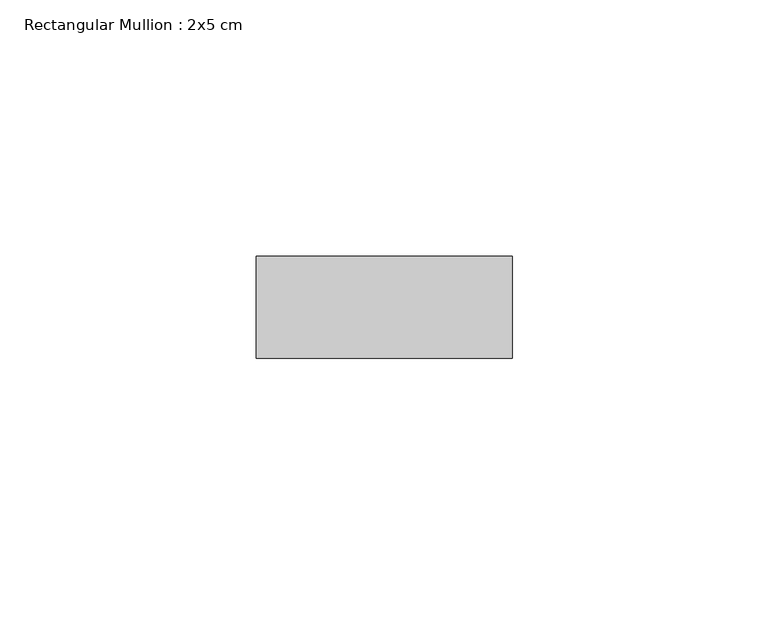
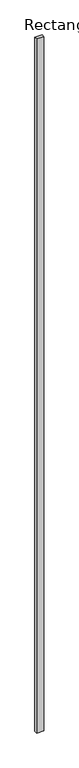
"""IFC4 building model written with IfcOpenShell, lengths in millimetres: member geometry, Rectangular Mullion : 2x5 cm."""

from ifc_helpers import new_model, si_unit, frame, origin, place, context, project, spatial, polyline, outline, extrude, source, transform, mapped, element, save


def rectangular_mullion_2x5_cm_9141539b(model_context):
    return source(origin(), model_context, "Body", "SweptSolid", [
        extrude(outline(polyline([(50.0, 20.0), (50.0, 0.0), (0.0, 0.0), (0.0, 20.0), (50.0, 20.0)])), frame((0.0, 0.0, -5050.6811693), z_axis=(0.0, 0.0, 1.0), x_axis=(1.0, 0.0, 0.0)), (0.0, 0.0, 1.0), 5050.6811693),
    ])


if __name__ == "__main__":
    model = new_model("IFC4")
    model_context = context("Model", 3, world=origin())
    ifc_project = project(units=[si_unit("LENGTHUNIT", "METRE", prefix="MILLI")], contexts=[model_context])
    site = spatial("IfcSite", under=ifc_project)
    building = spatial("IfcBuilding", under=site)
    placement = place(None, origin())
    rectangular_mullion_2x5_cm_shape = rectangular_mullion_2x5_cm_9141539b(model_context)
    element("IfcMember", 1, ObjectType="Rectangular Mullion : 2x5 cm", at=placement, inside=building, context=model_context, shape_type="MappedRepresentation", body=[
        mapped(rectangular_mullion_2x5_cm_shape, transform((0.0, 0.0, 0.0), x_axis=(1.0, 0.0, 0.0), y_axis=(0.0, 1.0, 0.0), z_axis=(0.0, 0.0, 1.0))),
    ])
    save(model, "model.ifc")
